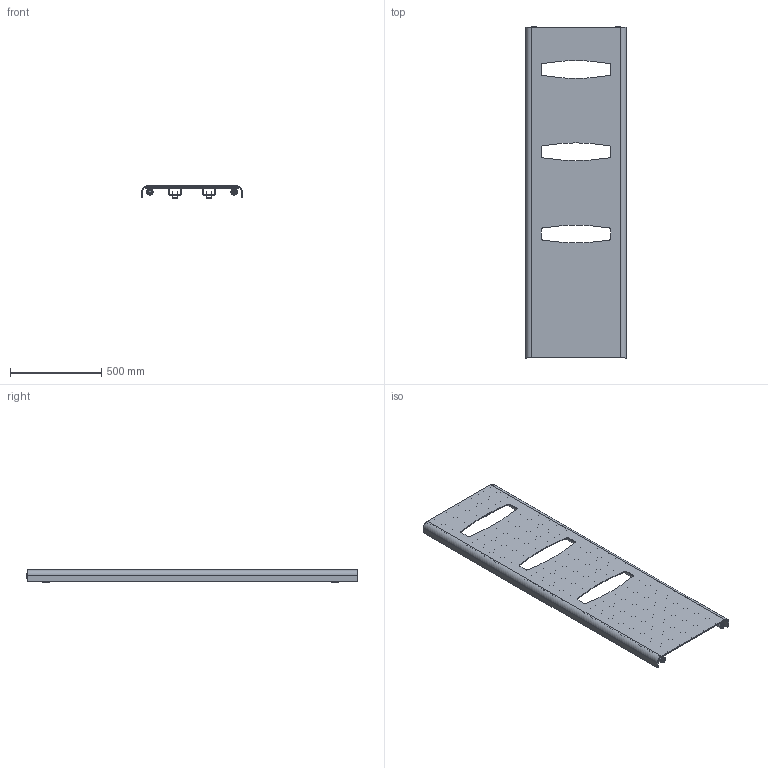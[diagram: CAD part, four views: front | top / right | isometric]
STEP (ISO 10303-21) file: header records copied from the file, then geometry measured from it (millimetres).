
FILE_DESCRIPTION (( 'STEP AP203' ), '1' );
FILE_NAME ('FMAS18550SV.STEP', '2026-03-04T12:43:11', ( '' ), ( '' ), 'SwSTEP 2.0', 'SolidWorks 2025', '' );
FILE_SCHEMA (( 'CONFIG_CONTROL_DESIGN' ));
Length unit declared in the file: millimetre
Products named in the file (9): tappo_sfiato.prt; LAMIERA FRONTALE MASK_1810x550; ZANCA-FISSAGGIO; COLLETTORE INT 75 [Con configurazioni]_1810; SUPPORTO; SUPPORTO A SALDARE_A; TRAVERSINO PIATTO 70 [Con configurazioni]_510; FMAS18550SV; tappo_sx.prt
Assembly tree (29 placements, depth 3):
  FMAS18550SV
    TRAVERSINO PIATTO 70 [Con configurazioni]_510  x18
    COLLETTORE INT 75 [Con configurazioni]_1810  x2
    LAMIERA FRONTALE MASK_1810x550
    SUPPORTO A SALDARE_A  x4
      ZANCA-FISSAGGIO
      SUPPORTO
    tappo_sx.prt
    tappo_sfiato.prt
Bounding box: 550 x 1816 x 67.5 mm (x, y, z)
Volume: 8026940.4 mm3; surface area: 5761441.1 mm2
Topology: 29 solids, 33 shells, 2039 faces, 5644 edges, 3525 vertices
Faces by surface type: plane 992, cylinder 684, cone 290, bspline 49, torus 24
Entity records: 31163 total; most frequent: CARTESIAN_POINT 18362, ORIENTED_EDGE 2730, DIRECTION 1839, EDGE_CURVE 1369, VERTEX_POINT 831, AXIS2_PLACEMENT_3D 635, B_SPLINE_CURVE_WITH_KNOTS 611, VECTOR 569
